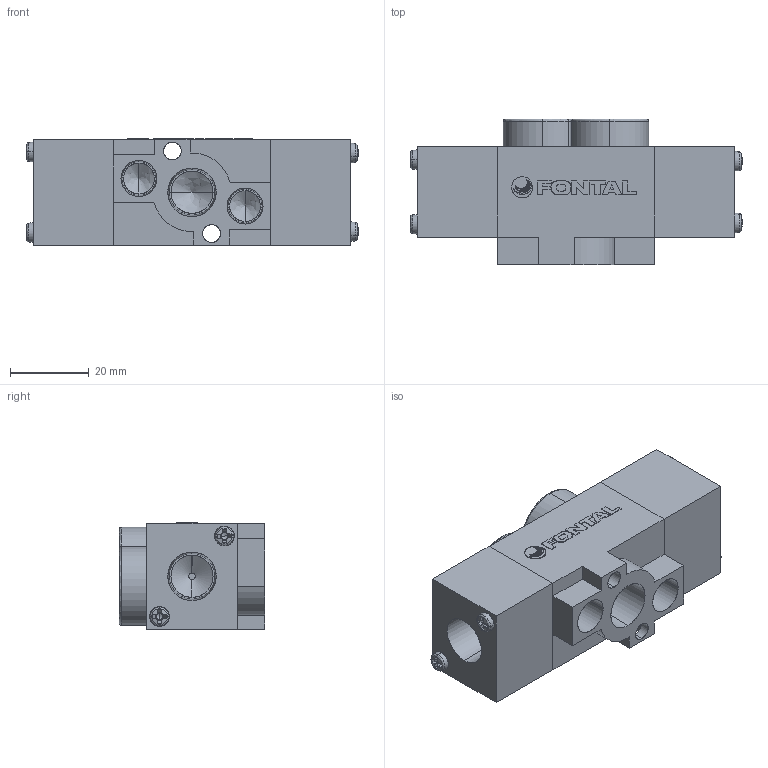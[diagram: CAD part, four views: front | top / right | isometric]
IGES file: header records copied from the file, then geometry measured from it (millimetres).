
Start section: SolidWorks IGES file using analytic representation for surfaces
Global section: file name: C:\Users\Toshiba\Desktop\YCD2406-02.IGS; native system: SolidWorks 2014; preprocessor: SolidWorks 2014; author: Toshiba; date: 160808.093118; units: millimetre
Bounding box: 84.49 x 37 x 27.15 mm (x, y, z)
Surface area: 19270 mm2 (no closed solid volume)
Topology: 0 solids, 0 shells, 367 faces, 3685 edges, 3663 vertices
Faces by surface type: bspline 236, revolution 131
